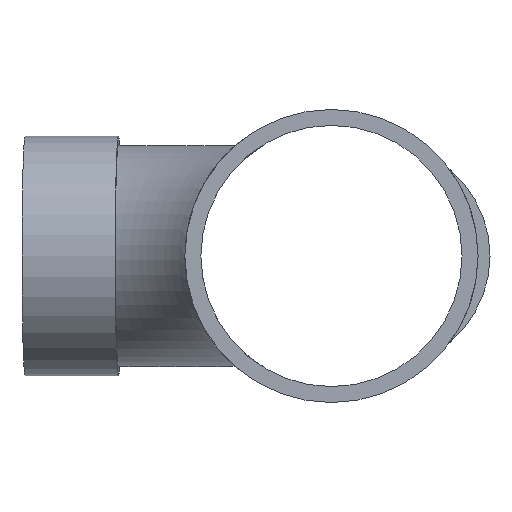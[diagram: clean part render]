
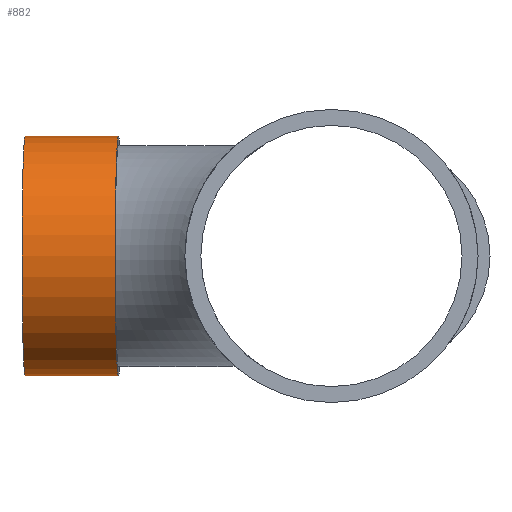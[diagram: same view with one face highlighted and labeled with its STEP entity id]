
A CAD part, front view. The second image highlights one B-rep face of the part: STEP entity #882.
In plain terms, the highlighted cylindrical face has radius 45 mm (diameter 90 mm), a full revolution.
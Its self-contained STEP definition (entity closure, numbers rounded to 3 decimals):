
#126=CYLINDRICAL_SURFACE($,#1013,45.);
#164=FACE_BOUND($,#308,.T.);
#218=FACE_OUTER_BOUND($,#307,.T.);
#307=EDGE_LOOP($,(#757));
#308=EDGE_LOOP($,(#758));
#379=CIRCLE($,#1012,45.);
#380=CIRCLE($,#1014,45.);
#453=VERTEX_POINT($,#1744);
#454=VERTEX_POINT($,#1747);
#555=EDGE_CURVE($,#453,#453,#379,.T.);
#556=EDGE_CURVE($,#454,#454,#380,.T.);
#757=ORIENTED_EDGE($,*,*,#556,.T.);
#758=ORIENTED_EDGE($,*,*,#555,.F.);
#882=ADVANCED_FACE($,(#218,#164),#126,.T.);
#1012=AXIS2_PLACEMENT_3D($,#1745,#1296,#1297);
#1013=AXIS2_PLACEMENT_3D($,#1746,#1298,#1299);
#1014=AXIS2_PLACEMENT_3D($,#1748,#1300,#1301);
#1296=DIRECTION('center_axis',(-1.,0.026,0.));
#1297=DIRECTION('ref_axis',(-0.026,-1.,0.));
#1298=DIRECTION('center_axis',(1.,-0.026,0.));
#1299=DIRECTION('ref_axis',(-0.026,-1.,0.));
#1300=DIRECTION('center_axis',(-1.,0.026,0.));
#1301=DIRECTION('ref_axis',(-0.026,-1.,0.));
#1744=CARTESIAN_POINT('',(-113.783,182.995,0.));
#1745=CARTESIAN_POINT('Origin',(-114.961,138.01,0.));
#1746=CARTESIAN_POINT('Origin',(-114.961,138.01,0.));
#1747=CARTESIAN_POINT('',(-78.795,182.079,0.));
#1748=CARTESIAN_POINT('Origin',(-79.973,137.094,0.));
